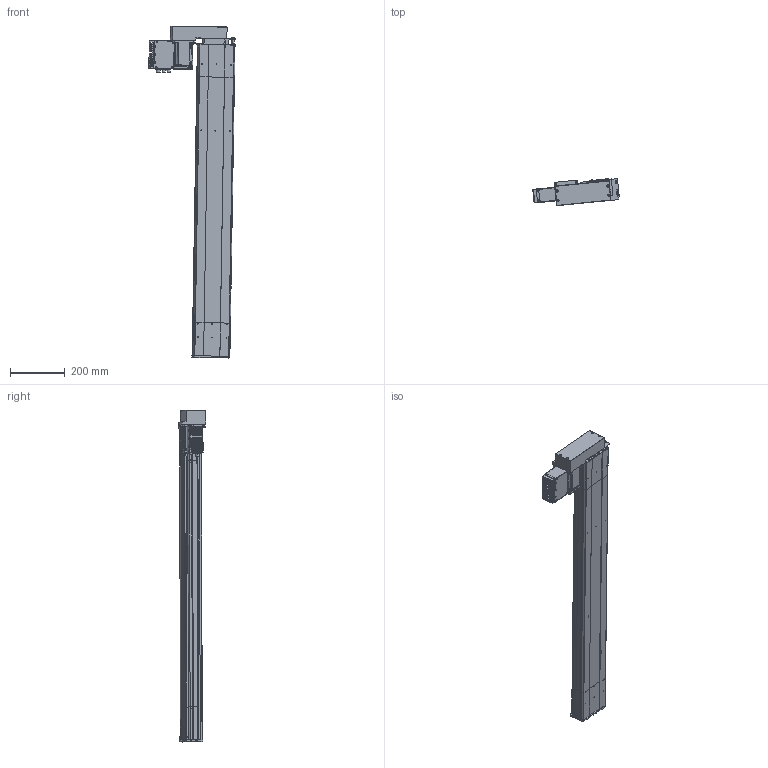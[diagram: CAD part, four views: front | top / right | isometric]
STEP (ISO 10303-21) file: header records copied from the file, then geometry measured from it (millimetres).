
FILE_DESCRIPTION (( 'STEP AP203' ), '1' );
FILE_NAME ('D14 TSH M4 BR L10 S900.STEP', '2012-10-10T13:56:35', ( '' ), ( '' ), 'SwSTEP 2.0', 'SolidWorks 2010', '' );
FILE_SCHEMA (( 'CONFIG_CONTROL_DESIGN' ));
Length unit declared in the file: millimetre
Products named in the file (27): T犨e contre le moteur_2; Moteur_2; Tôle latérale_2; Couvercle_2; Connecteur rond D12 4cts_2; plaque de  bout tail D14_Default_2; couvercle D14 head_Default_2; Pièce902; vis CHC M7; plaque de bout head d14 BR; D14 TSH M4 BR L10 S900; corp head D14_Default_2; plaque de  bout head D14 MD_Default_2; corpl tail D14_Default_2; Sub D 9cts_2; T犨e fond_2; Connecteur rond D10 3cts_2; Tôle Arrière_2; Moteur 70BLDC90A_2; Colonnette_2; Radiateur_2; Vis TF 3 torkx_2; Pièce900; Embout raccord d14; plaque de maintient D14; Vis CHC M8; vis CHC M5.5
Assembly tree (59 placements, depth 3):
  D14 TSH M4 BR L10 S900
    plaque de  bout tail D14_Default_2
    corpl tail D14_Default_2
    plaque de  bout head D14 MD_Default_2
    Pièce902
    corp head D14_Default_2
    Embout raccord d14
      vis CHC M7  x2
      vis CHC M5.5  x4
      plaque de maintient D14
      Vis CHC M8  x2
      plaque de bout head d14 BR
    couvercle D14 head_Default_2  x2
    Pièce900
    Moteur_2
      Vis TF 3 torkx_2  x26
      Connecteur rond D10 3cts_2  x2
      Connecteur rond D12 4cts_2
      Tôle Arrière_2
      Radiateur_2
      Tôle latérale_2  x2
      T犨e fond_2
      Moteur 70BLDC90A_2
      Couvercle_2
      Colonnette_2
      T犨e contre le moteur_2
      Sub D 9cts_2
Bounding box: 316.32 x 100.45 x 1215.81 mm (x, y, z)
Volume: 4531217.8 mm3; surface area: 1396005.4 mm2
Topology: 79 solids, 79 shells, 2575 faces, 6652 edges, 4377 vertices
Faces by surface type: plane 1388, cylinder 891, cone 150, bspline 130, torus 16
Entity records: 67439 total; most frequent: CARTESIAN_POINT 21211, ORIENTED_EDGE 8882, DIRECTION 8584, EDGE_CURVE 4441, LINE 2952, VECTOR 2952, VERTEX_POINT 2931, AXIS2_PLACEMENT_3D 2816
